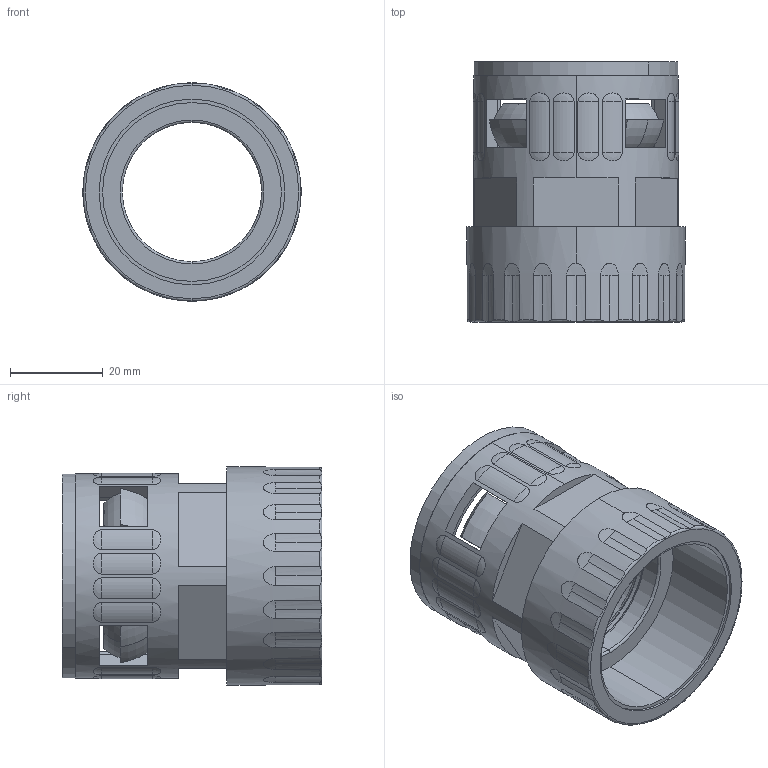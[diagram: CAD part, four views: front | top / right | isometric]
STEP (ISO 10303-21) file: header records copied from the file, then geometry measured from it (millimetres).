
FILE_DESCRIPTION (( 'STEP AP203' ), '1' );
FILE_NAME ('WQG2-M40-AD34.5.STEP', '2020-03-13T02:16:12', ( '' ), ( '' ), 'SwSTEP 2.0', 'SolidWorks 2016', '' );
FILE_SCHEMA (( 'CONFIG_CONTROL_DESIGN' ));
Length unit declared in the file: millimetre
Products named in the file (4): GFD-AD34.5; WQG2-M40-AD34.5-01; NSK-AD34.5; WQG2-M40-AD34.5
Assembly tree (3 placements, depth 2):
  WQG2-M40-AD34.5
    WQG2-M40-AD34.5-01
    GFD-AD34.5
    NSK-AD34.5
Bounding box: 47 x 56 x 47 mm (x, y, z)
Volume: 30509.2 mm3; surface area: 25751.3 mm2
Topology: 3 solids, 3 shells, 325 faces, 934 edges, 578 vertices
Faces by surface type: plane 105, cylinder 94, sphere 52, cone 45, torus 29
Entity records: 12177 total; most frequent: CARTESIAN_POINT 3653, DIRECTION 1743, ORIENTED_EDGE 1700, EDGE_CURVE 850, AXIS2_PLACEMENT_3D 688, VERTEX_POINT 546, LINE 367, VECTOR 367
